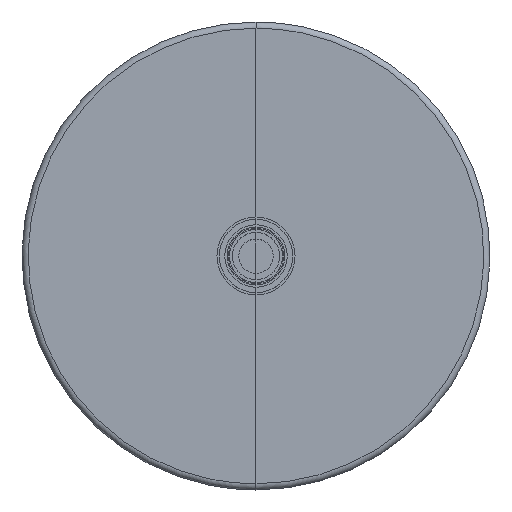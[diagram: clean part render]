
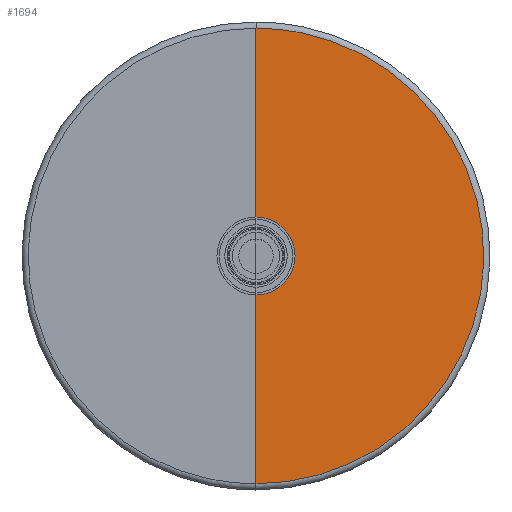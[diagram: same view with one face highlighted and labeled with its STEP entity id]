
A CAD part, top view. The second image highlights one B-rep face of the part: STEP entity #1694.
In plain terms, the highlighted planar face has unit normal (0, 0, 1).
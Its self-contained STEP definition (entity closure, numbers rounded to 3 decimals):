
#56=PLANE('',#1850);
#118=CIRCLE('',#1841,20.);
#220=LINE('',#3506,#322);
#221=LINE('',#3507,#323);
#322=VECTOR('',#2168,304.8);
#323=VECTOR('',#2169,304.8);
#482=FACE_OUTER_BOUND('',#602,.T.);
#602=EDGE_LOOP('',(#1306,#1307,#1308,#1309));
#713=B_SPLINE_CURVE_WITH_KNOTS('',3,(#3304,#3305,#3306,#3307,#3308,#3309,
#3310,#3311,#3312,#3313,#3314,#3315,#3316,#3317),.UNSPECIFIED.,.F.,.F.,
(4,1,1,1,1,1,1,1,1,1,1,4),(0.,0.091,0.182,0.273,
0.364,0.455,0.545,0.636,
0.727,0.818,0.909,1.),.UNSPECIFIED.);
#784=VERTEX_POINT('',#3084);
#785=VERTEX_POINT('',#3085);
#790=VERTEX_POINT('',#3130);
#791=VERTEX_POINT('',#3303);
#954=EDGE_CURVE('',#784,#785,#118,.T.);
#965=EDGE_CURVE('',#791,#790,#713,.T.);
#968=EDGE_CURVE('',#784,#790,#220,.T.);
#969=EDGE_CURVE('',#791,#785,#221,.T.);
#1306=ORIENTED_EDGE('',*,*,#965,.T.);
#1307=ORIENTED_EDGE('',*,*,#968,.F.);
#1308=ORIENTED_EDGE('',*,*,#954,.T.);
#1309=ORIENTED_EDGE('',*,*,#969,.F.);
#1694=ADVANCED_FACE('',(#482),#56,.F.);
#1841=AXIS2_PLACEMENT_3D('',#3086,#2144,#2145);
#1850=AXIS2_PLACEMENT_3D('',#3505,#2166,#2167);
#2144=DIRECTION('center_axis',(0.,0.,-1.));
#2145=DIRECTION('ref_axis',(0.,-1.,0.));
#2166=DIRECTION('center_axis',(0.,0.,-1.));
#2167=DIRECTION('ref_axis',(0.,-1.,0.));
#2168=DIRECTION('',(0.,1.,0.));
#2169=DIRECTION('',(0.,1.,0.));
#3084=CARTESIAN_POINT('',(0.,20.,88.));
#3085=CARTESIAN_POINT('',(0.,-20.,88.));
#3086=CARTESIAN_POINT('Origin',(0.,0.,88.));
#3130=CARTESIAN_POINT('',(0.,146.,88.));
#3303=CARTESIAN_POINT('',(0.,-146.,88.));
#3304=CARTESIAN_POINT('Ctrl Pts',(0.,-146.,
88.));
#3305=CARTESIAN_POINT('Ctrl Pts',(13.915,-146.056,88.));
#3306=CARTESIAN_POINT('Ctrl Pts',(41.688,-141.977,88.));
#3307=CARTESIAN_POINT('Ctrl Pts',(80.016,-124.511,88.));
#3308=CARTESIAN_POINT('Ctrl Pts',(111.849,-96.916,88.));
#3309=CARTESIAN_POINT('Ctrl Pts',(134.624,-61.481,88.));
#3310=CARTESIAN_POINT('Ctrl Pts',(146.492,-21.062,88.));
#3311=CARTESIAN_POINT('Ctrl Pts',(146.492,21.062,88.));
#3312=CARTESIAN_POINT('Ctrl Pts',(134.624,61.481,88.));
#3313=CARTESIAN_POINT('Ctrl Pts',(111.849,96.916,88.));
#3314=CARTESIAN_POINT('Ctrl Pts',(80.016,124.511,88.));
#3315=CARTESIAN_POINT('Ctrl Pts',(41.688,141.977,88.));
#3316=CARTESIAN_POINT('Ctrl Pts',(13.915,146.056,88.));
#3317=CARTESIAN_POINT('Ctrl Pts',(0.,146.,
88.));
#3505=CARTESIAN_POINT('Origin',(0.,0.,88.));
#3506=CARTESIAN_POINT('',(0.,20.,88.));
#3507=CARTESIAN_POINT('',(0.,-146.,88.));
